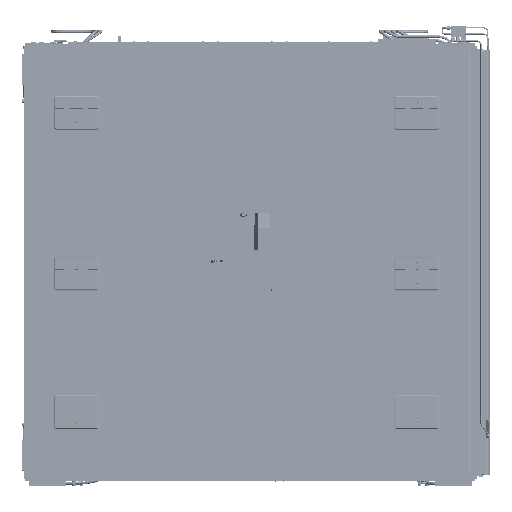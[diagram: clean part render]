
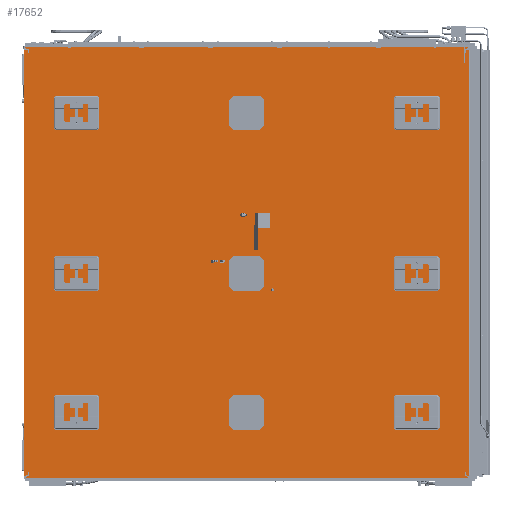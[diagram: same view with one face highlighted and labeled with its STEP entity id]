
A CAD part, front view. The second image highlights one B-rep face of the part: STEP entity #17652.
In plain terms, the highlighted planar face has unit normal (0, -1, 0).
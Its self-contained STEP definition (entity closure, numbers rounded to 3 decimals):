
#17652=ADVANCED_FACE('',(#35613),#28276,.T.);
#28276=PLANE('',#212493);
#35613=FACE_OUTER_BOUND('',#44746,.T.);
#44746=EDGE_LOOP('',(#58148,#58149,#58150,#58151));
#58148=ORIENTED_EDGE('',*,*,#120639,.T.);
#58149=ORIENTED_EDGE('',*,*,#120635,.T.);
#58150=ORIENTED_EDGE('',*,*,#120640,.F.);
#58151=ORIENTED_EDGE('',*,*,#120641,.T.);
#105379=VERTEX_POINT('',#275107);
#105380=VERTEX_POINT('',#275108);
#105383=VERTEX_POINT('',#275116);
#105384=VERTEX_POINT('',#275118);
#120635=EDGE_CURVE('',#105379,#105380,#191557,.T.);
#120639=EDGE_CURVE('',#105383,#105379,#191561,.T.);
#120640=EDGE_CURVE('',#105384,#105380,#191562,.T.);
#120641=EDGE_CURVE('',#105384,#105383,#191563,.T.);
#191557=LINE('',#275106,#203076);
#191561=LINE('',#275115,#203080);
#191562=LINE('',#275117,#203081);
#191563=LINE('',#275119,#203082);
#203076=VECTOR('',#231407,1.);
#203080=VECTOR('',#231413,1.);
#203081=VECTOR('',#231414,1.);
#203082=VECTOR('',#231415,1.);
#212493=AXIS2_PLACEMENT_3D('',#275120,#231416,#231417);
#231407=DIRECTION('',(-1.,0.,0.));
#231413=DIRECTION('',(0.,0.,1.));
#231414=DIRECTION('',(0.,0.,1.));
#231415=DIRECTION('',(1.,0.,0.));
#231416=DIRECTION('',(0.,-1.,0.));
#231417=DIRECTION('',(0.,0.,-1.));
#275106=CARTESIAN_POINT('',(1281.,0.,2487.));
#275107=CARTESIAN_POINT('',(2562.,0.,2487.));
#275108=CARTESIAN_POINT('',(0.,0.,2487.));
#275115=CARTESIAN_POINT('',(2562.,0.,0.));
#275116=CARTESIAN_POINT('',(2562.,0.,0.));
#275117=CARTESIAN_POINT('',(0.,0.,0.));
#275118=CARTESIAN_POINT('',(0.,0.,0.));
#275119=CARTESIAN_POINT('',(1281.,0.,0.));
#275120=CARTESIAN_POINT('',(1281.,0.,0.));
